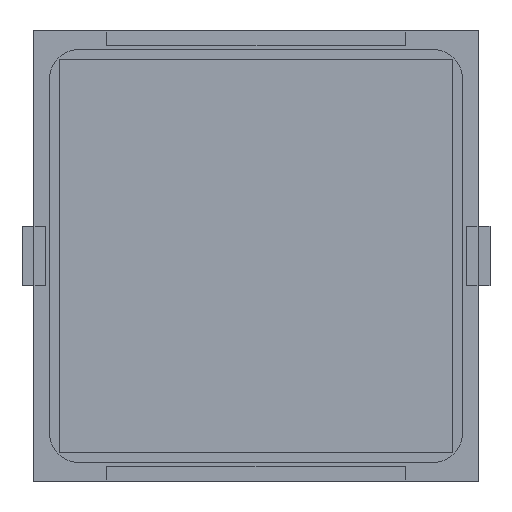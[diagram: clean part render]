
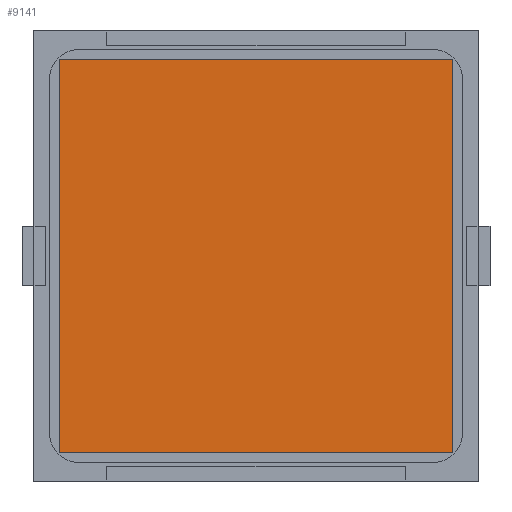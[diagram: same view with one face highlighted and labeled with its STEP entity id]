
A CAD part, front view. The second image highlights one B-rep face of the part: STEP entity #9141.
In plain terms, the highlighted planar face has unit normal (0, -1, 0).
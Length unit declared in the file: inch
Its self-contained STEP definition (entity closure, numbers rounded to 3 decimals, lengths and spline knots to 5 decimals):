
#39 = LINE ( 'NONE', #9241, #6534 ) ;
#134 = CARTESIAN_POINT ( 'NONE',  ( -0.64961, -0.005, -0.64961 ) ) ;
#838 = PLANE ( 'NONE',  #8032 ) ;
#980 = CARTESIAN_POINT ( 'NONE',  ( -0.64961, -0.005, 0.64961 ) ) ;
#1110 = CARTESIAN_POINT ( 'NONE',  ( -0.64961, -0.005, -0.64961 ) ) ;
#1717 = DIRECTION ( 'NONE',  ( -1., 0., 0. ) ) ;
#1764 = VECTOR ( 'NONE', #6921, 39.37008 ) ;
#2459 = CARTESIAN_POINT ( 'NONE',  ( -0.64961, -0.005, -0.64961 ) ) ;
#2720 = EDGE_CURVE ( 'NONE', #8667, #9294, #3250, .T. ) ;
#3250 = LINE ( 'NONE', #8479, #6919 ) ;
#3465 = ORIENTED_EDGE ( 'NONE', *, *, #7863, .F. ) ;
#4210 = ORIENTED_EDGE ( 'NONE', *, *, #8052, .F. ) ;
#4633 = EDGE_CURVE ( 'NONE', #9294, #5794, #39, .T. ) ;
#5183 = CARTESIAN_POINT ( 'NONE',  ( -0.64961, -0.005, 0.64961 ) ) ;
#5740 = ORIENTED_EDGE ( 'NONE', *, *, #4633, .F. ) ;
#5794 = VERTEX_POINT ( 'NONE', #8692 ) ;
#5911 = FACE_OUTER_BOUND ( 'NONE', #8934, .T. ) ;
#6534 = VECTOR ( 'NONE', #8518, 39.37008 ) ;
#6889 = DIRECTION ( 'NONE',  ( 1., 0., 0. ) ) ;
#6919 = VECTOR ( 'NONE', #6889, 39.37008 ) ;
#6921 = DIRECTION ( 'NONE',  ( 0., 0., 1. ) ) ;
#7133 = ORIENTED_EDGE ( 'NONE', *, *, #2720, .F. ) ;
#7356 = VECTOR ( 'NONE', #1717, 39.37008 ) ;
#7863 = EDGE_CURVE ( 'NONE', #5794, #10709, #8348, .T. ) ;
#8032 = AXIS2_PLACEMENT_3D ( 'NONE', #5183, #8471, #8593 ) ;
#8052 = EDGE_CURVE ( 'NONE', #10709, #8667, #8578, .T. ) ;
#8348 = LINE ( 'NONE', #2459, #7356 ) ;
#8471 = DIRECTION ( 'NONE',  ( 0., 1., 0. ) ) ;
#8479 = CARTESIAN_POINT ( 'NONE',  ( -0.64961, -0.005, 0.64961 ) ) ;
#8518 = DIRECTION ( 'NONE',  ( 0., 0., -1. ) ) ;
#8578 = LINE ( 'NONE', #1110, #1764 ) ;
#8593 = DIRECTION ( 'NONE',  ( 0., 0., 1. ) ) ;
#8667 = VERTEX_POINT ( 'NONE', #980 ) ;
#8692 = CARTESIAN_POINT ( 'NONE',  ( 0.64961, -0.005, -0.64961 ) ) ;
#8934 = EDGE_LOOP ( 'NONE', ( #4210, #3465, #5740, #7133 ) ) ;
#8981 = CARTESIAN_POINT ( 'NONE',  ( 0.64961, -0.005, 0.64961 ) ) ;
#9141 = ADVANCED_FACE ( 'NONE', ( #5911 ), #838, .F. ) ;
#9241 = CARTESIAN_POINT ( 'NONE',  ( 0.64961, -0.005, -0.64961 ) ) ;
#9294 = VERTEX_POINT ( 'NONE', #8981 ) ;
#10709 = VERTEX_POINT ( 'NONE', #134 ) ;
